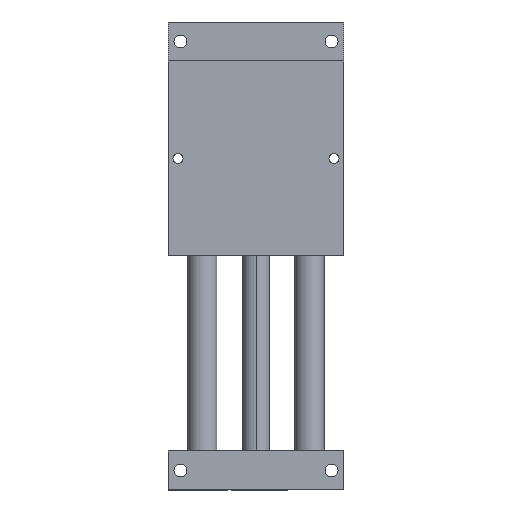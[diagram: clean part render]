
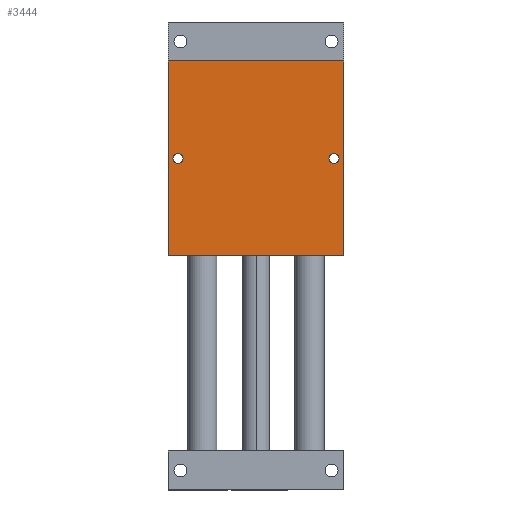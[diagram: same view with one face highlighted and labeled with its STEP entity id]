
A CAD part, front view. The second image highlights one B-rep face of the part: STEP entity #3444.
In plain terms, the highlighted planar face has unit normal (0, -1, 0).
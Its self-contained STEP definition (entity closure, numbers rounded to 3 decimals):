
#46 = VERTEX_POINT ( 'NONE', #2895 ) ;
#160 = ORIENTED_EDGE ( 'NONE', *, *, #1842, .T. ) ;
#180 = EDGE_CURVE ( 'NONE', #2891, #1540, #1536, .T. ) ;
#236 = DIRECTION ( 'NONE',  ( 1., 0., 0. ) ) ;
#251 = DIRECTION ( 'NONE',  ( 0., 0., 1. ) ) ;
#254 = EDGE_CURVE ( 'NONE', #1540, #2174, #3531, .T. ) ;
#364 = VECTOR ( 'NONE', #236, 1000. ) ;
#380 = CARTESIAN_POINT ( 'NONE',  ( -50.8, -19.05, -3.264 ) ) ;
#406 = EDGE_CURVE ( 'NONE', #2630, #2891, #1730, .T. ) ;
#428 = AXIS2_PLACEMENT_3D ( 'NONE', #1438, #3509, #1734 ) ;
#480 = EDGE_LOOP ( 'NONE', ( #1207, #1771 ) ) ;
#493 = VERTEX_POINT ( 'NONE', #380 ) ;
#537 = EDGE_LOOP ( 'NONE', ( #2217, #3400, #1166, #2430 ) ) ;
#630 = CARTESIAN_POINT ( 'NONE',  ( 50.8, -19.05, 0. ) ) ;
#631 = FACE_BOUND ( 'NONE', #480, .T. ) ;
#649 = VECTOR ( 'NONE', #3666, 1000. ) ;
#726 = FACE_BOUND ( 'NONE', #2309, .T. ) ;
#762 = PLANE ( 'NONE',  #2084 ) ;
#865 = CIRCLE ( 'NONE', #428, 3.264 ) ;
#885 = DIRECTION ( 'NONE',  ( 0., 1., 0. ) ) ;
#925 = DIRECTION ( 'NONE',  ( 0., 0., 1. ) ) ;
#1031 = VECTOR ( 'NONE', #3037, 1000. ) ;
#1055 = DIRECTION ( 'NONE',  ( 0., 0., 1. ) ) ;
#1117 = CARTESIAN_POINT ( 'NONE',  ( -57.15, -19.05, -63.5 ) ) ;
#1131 = CARTESIAN_POINT ( 'NONE',  ( -57.15, -19.05, -63.5 ) ) ;
#1166 = ORIENTED_EDGE ( 'NONE', *, *, #2328, .F. ) ;
#1203 = CARTESIAN_POINT ( 'NONE',  ( -57.15, -19.05, -63.5 ) ) ;
#1207 = ORIENTED_EDGE ( 'NONE', *, *, #3811, .T. ) ;
#1369 = CIRCLE ( 'NONE', #2679, 3.264 ) ;
#1379 = AXIS2_PLACEMENT_3D ( 'NONE', #630, #2703, #925 ) ;
#1438 = CARTESIAN_POINT ( 'NONE',  ( -50.8, -19.05, 0. ) ) ;
#1536 = LINE ( 'NONE', #1131, #649 ) ;
#1540 = VERTEX_POINT ( 'NONE', #3065 ) ;
#1552 = CARTESIAN_POINT ( 'NONE',  ( 50.8, -19.05, 3.264 ) ) ;
#1560 = CIRCLE ( 'NONE', #2221, 3.264 ) ;
#1579 = CARTESIAN_POINT ( 'NONE',  ( -57.15, -19.05, 63.5 ) ) ;
#1647 = CARTESIAN_POINT ( 'NONE',  ( -57.15, -19.05, 63.5 ) ) ;
#1730 = LINE ( 'NONE', #1203, #1031 ) ;
#1734 = DIRECTION ( 'NONE',  ( 0., 0., 1. ) ) ;
#1771 = ORIENTED_EDGE ( 'NONE', *, *, #3688, .T. ) ;
#1842 = EDGE_CURVE ( 'NONE', #46, #3219, #1369, .T. ) ;
#1890 = ORIENTED_EDGE ( 'NONE', *, *, #3127, .T. ) ;
#2003 = VERTEX_POINT ( 'NONE', #2108 ) ;
#2030 = DIRECTION ( 'NONE',  ( 0., 1., 0. ) ) ;
#2084 = AXIS2_PLACEMENT_3D ( 'NONE', #1647, #2830, #1055 ) ;
#2108 = CARTESIAN_POINT ( 'NONE',  ( -50.8, -19.05, 3.264 ) ) ;
#2173 = CARTESIAN_POINT ( 'NONE',  ( 57.15, -19.05, -63.5 ) ) ;
#2174 = VERTEX_POINT ( 'NONE', #3072 ) ;
#2217 = ORIENTED_EDGE ( 'NONE', *, *, #180, .F. ) ;
#2218 = LINE ( 'NONE', #3544, #3011 ) ;
#2221 = AXIS2_PLACEMENT_3D ( 'NONE', #2662, #885, #2963 ) ;
#2309 = EDGE_LOOP ( 'NONE', ( #1890, #160 ) ) ;
#2328 = EDGE_CURVE ( 'NONE', #2174, #2630, #2218, .T. ) ;
#2430 = ORIENTED_EDGE ( 'NONE', *, *, #254, .F. ) ;
#2630 = VERTEX_POINT ( 'NONE', #2173 ) ;
#2662 = CARTESIAN_POINT ( 'NONE',  ( -50.8, -19.05, 0. ) ) ;
#2679 = AXIS2_PLACEMENT_3D ( 'NONE', #3823, #2030, #251 ) ;
#2703 = DIRECTION ( 'NONE',  ( 0., 1., 0. ) ) ;
#2830 = DIRECTION ( 'NONE',  ( 0., 1., 0. ) ) ;
#2891 = VERTEX_POINT ( 'NONE', #1117 ) ;
#2895 = CARTESIAN_POINT ( 'NONE',  ( 50.8, -19.05, -3.264 ) ) ;
#2963 = DIRECTION ( 'NONE',  ( 0., 0., 1. ) ) ;
#3003 = FACE_OUTER_BOUND ( 'NONE', #537, .T. ) ;
#3011 = VECTOR ( 'NONE', #3236, 1000. ) ;
#3037 = DIRECTION ( 'NONE',  ( -1., 0., 0. ) ) ;
#3065 = CARTESIAN_POINT ( 'NONE',  ( -57.15, -19.05, 63.5 ) ) ;
#3072 = CARTESIAN_POINT ( 'NONE',  ( 57.15, -19.05, 63.5 ) ) ;
#3127 = EDGE_CURVE ( 'NONE', #3219, #46, #3156, .T. ) ;
#3156 = CIRCLE ( 'NONE', #1379, 3.264 ) ;
#3219 = VERTEX_POINT ( 'NONE', #1552 ) ;
#3236 = DIRECTION ( 'NONE',  ( 0., 0., -1. ) ) ;
#3400 = ORIENTED_EDGE ( 'NONE', *, *, #406, .F. ) ;
#3444 = ADVANCED_FACE ( 'NONE', ( #631, #726, #3003 ), #762, .F. ) ;
#3509 = DIRECTION ( 'NONE',  ( 0., 1., 0. ) ) ;
#3531 = LINE ( 'NONE', #1579, #364 ) ;
#3544 = CARTESIAN_POINT ( 'NONE',  ( 57.15, -19.05, -63.5 ) ) ;
#3666 = DIRECTION ( 'NONE',  ( 0., 0., 1. ) ) ;
#3688 = EDGE_CURVE ( 'NONE', #493, #2003, #865, .T. ) ;
#3811 = EDGE_CURVE ( 'NONE', #2003, #493, #1560, .T. ) ;
#3823 = CARTESIAN_POINT ( 'NONE',  ( 50.8, -19.05, 0. ) ) ;
